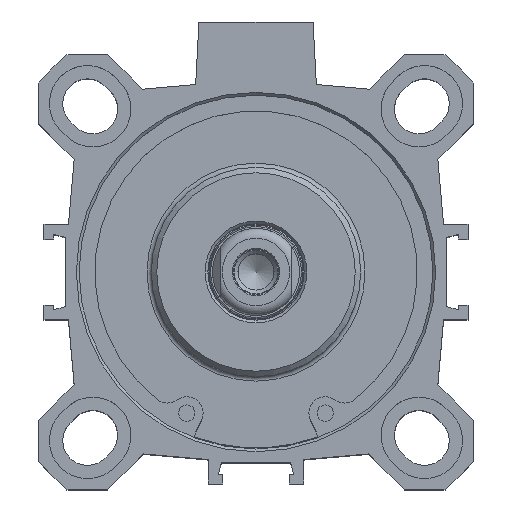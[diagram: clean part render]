
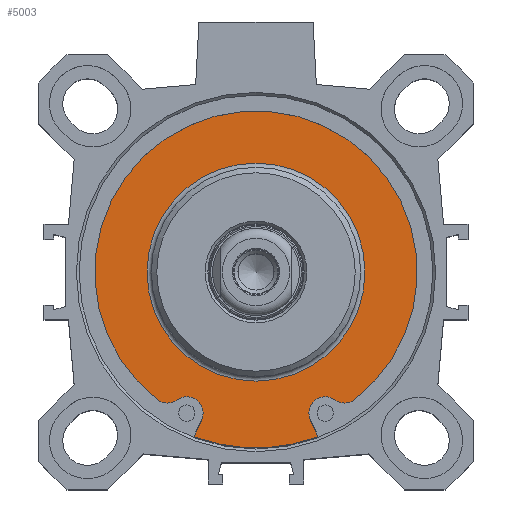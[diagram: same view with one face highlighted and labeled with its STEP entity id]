
A CAD part, top view. The second image highlights one B-rep face of the part: STEP entity #5003.
In plain terms, the highlighted planar face has unit normal (0, 0, 1).
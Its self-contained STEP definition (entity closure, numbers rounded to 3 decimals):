
#78=PLANE('',#5273);
#198=LINE('',#6699,#502);
#202=LINE('',#6711,#506);
#502=VECTOR('',#5634,1000.);
#506=VECTOR('',#5646,1000.);
#951=ORIENTED_EDGE('',*,*,#1851,.T.);
#952=ORIENTED_EDGE('',*,*,#1821,.T.);
#953=ORIENTED_EDGE('',*,*,#1843,.F.);
#954=ORIENTED_EDGE('',*,*,#1827,.T.);
#955=ORIENTED_EDGE('',*,*,#1831,.T.);
#956=ORIENTED_EDGE('',*,*,#1833,.T.);
#957=ORIENTED_EDGE('',*,*,#1810,.T.);
#958=ORIENTED_EDGE('',*,*,#1814,.T.);
#959=ORIENTED_EDGE('',*,*,#1817,.T.);
#1810=EDGE_CURVE('',#2281,#2280,#2618,.T.);
#1814=EDGE_CURVE('',#2280,#2283,#2620,.T.);
#1817=EDGE_CURVE('',#2283,#2285,#2622,.T.);
#1821=EDGE_CURVE('',#2285,#2288,#198,.T.);
#1827=EDGE_CURVE('',#2293,#2292,#202,.T.);
#1831=EDGE_CURVE('',#2292,#2295,#2626,.T.);
#1833=EDGE_CURVE('',#2295,#2281,#2628,.T.);
#1843=EDGE_CURVE('',#2293,#2288,#2638,.T.);
#1851=EDGE_CURVE('',#2311,#2311,#2646,.T.);
#2280=VERTEX_POINT('',#6676);
#2281=VERTEX_POINT('',#6678);
#2283=VERTEX_POINT('',#6684);
#2285=VERTEX_POINT('',#6690);
#2288=VERTEX_POINT('',#6698);
#2292=VERTEX_POINT('',#6710);
#2293=VERTEX_POINT('',#6712);
#2295=VERTEX_POINT('',#6718);
#2311=VERTEX_POINT('',#6776);
#2618=CIRCLE('',#5217,29.65);
#2620=CIRCLE('',#5220,3.);
#2622=CIRCLE('',#5223,3.);
#2626=CIRCLE('',#5231,3.);
#2628=CIRCLE('',#5234,3.);
#2638=CIRCLE('',#5257,32.35);
#2646=CIRCLE('',#5272,20.05);
#2817=EDGE_LOOP('',(#951));
#2818=EDGE_LOOP('',(#952,#953,#954,#955,#956,#957,#958,#959));
#3135=FACE_BOUND('',#2817,.T.);
#3136=FACE_BOUND('',#2818,.T.);
#5003=ADVANCED_FACE('',(#3135,#3136),#78,.T.);
#5217=AXIS2_PLACEMENT_3D('',#6677,#5612,#5613);
#5220=AXIS2_PLACEMENT_3D('',#6685,#5620,#5621);
#5223=AXIS2_PLACEMENT_3D('',#6691,#5627,#5628);
#5231=AXIS2_PLACEMENT_3D('',#6719,#5653,#5654);
#5234=AXIS2_PLACEMENT_3D('',#6722,#5659,#5660);
#5257=AXIS2_PLACEMENT_3D('',#6753,#5705,#5706);
#5272=AXIS2_PLACEMENT_3D('',#6775,#5735,#5736);
#5273=AXIS2_PLACEMENT_3D('',#6777,#5737,#5738);
#5612=DIRECTION('',(0.,0.,1.));
#5613=DIRECTION('',(-0.611,0.792,0.));
#5620=DIRECTION('',(0.,0.,1.));
#5621=DIRECTION('',(0.611,0.792,0.));
#5627=DIRECTION('',(0.,0.,-1.));
#5628=DIRECTION('',(0.907,-0.422,0.));
#5634=DIRECTION('',(-0.422,-0.907,0.));
#5646=DIRECTION('',(-0.422,0.907,0.));
#5653=DIRECTION('',(0.,0.,-1.));
#5654=DIRECTION('',(0.592,0.806,0.));
#5659=DIRECTION('',(0.,0.,1.));
#5660=DIRECTION('',(0.592,0.806,0.));
#5705=DIRECTION('',(0.,0.,-1.));
#5706=DIRECTION('',(-1.,0.,0.));
#5735=DIRECTION('',(0.,0.,-1.));
#5736=DIRECTION('',(-1.,0.,0.));
#5737=DIRECTION('',(0.,0.,1.));
#5738=DIRECTION('',(1.,0.,0.));
#6676=CARTESIAN_POINT('',(-18.117,-23.472,86.35));
#6677=CARTESIAN_POINT('',(0.,0.,86.35));
#6678=CARTESIAN_POINT('',(18.117,-23.472,86.35));
#6684=CARTESIAN_POINT('',(-14.509,-23.515,86.35));
#6685=CARTESIAN_POINT('',(-16.284,-21.097,86.35));
#6690=CARTESIAN_POINT('',(-10.014,-27.199,86.35));
#6691=CARTESIAN_POINT('',(-12.734,-25.934,86.35));
#6698=CARTESIAN_POINT('',(-11.437,-30.261,86.35));
#6699=CARTESIAN_POINT('',(-10.014,-27.199,86.35));
#6710=CARTESIAN_POINT('',(10.014,-27.199,86.35));
#6711=CARTESIAN_POINT('',(11.437,-30.261,86.35));
#6712=CARTESIAN_POINT('',(11.437,-30.261,86.35));
#6718=CARTESIAN_POINT('',(14.509,-23.515,86.35));
#6719=CARTESIAN_POINT('',(12.734,-25.934,86.35));
#6722=CARTESIAN_POINT('',(16.284,-21.097,86.35));
#6753=CARTESIAN_POINT('',(0.,0.,86.35));
#6775=CARTESIAN_POINT('',(0.,0.,86.35));
#6776=CARTESIAN_POINT('',(-20.05,0.,86.35));
#6777=CARTESIAN_POINT('',(-26.2,0.,86.35));
